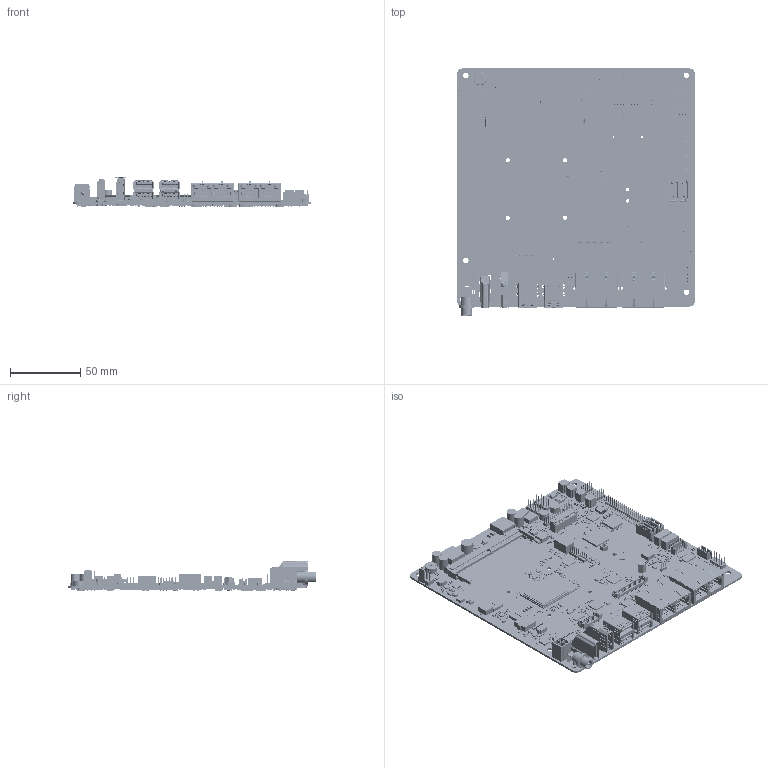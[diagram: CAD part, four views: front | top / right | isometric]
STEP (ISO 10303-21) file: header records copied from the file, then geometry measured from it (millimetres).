
FILE_DESCRIPTION((''),'2;1');
FILE_NAME('0-EMX-EHLP_ASM','2023-03-14T15:56:05',('isaac_lin'),(''),'CREO PARAMETRIC BY PTC INC, 2022284','CREO PARAMETRIC BY PTC INC, 2022284','');
FILE_SCHEMA(('CONFIG_CONTROL_DESIGN'));
Products named in the file (134): EMX-EHLP_PCB; E193A3601X0R; E193A231062R; COP_4_8; USB-CONN; E16F2020130H_3VD21201-H7U0-4H; J-1700000000110_HDMI; E1652503106R; 1655004509-01___; CPU_ELKHART_LAKE_IHS; ELKHART_LATE_CPU; E1652528305R; FITING-NAIL; MAIN_HSG-MODIFY_1_1; HSG_ASM; L_FEA_3_0615_SH; FEATML_ASM; NGFF_PROPOSAL_STANDARD_PROFILE__ASM; A1_ASM; CONNECTOR4_2_ASM; E16BB671030H_ASM; E16D5I00301R; E199TT00343R; C121220151D000H; Q222-386889-00; A-CE_H200; A-FCC_H200; E14S3520900H; E1315700214H; E14S3019801H; E1314111719H; E1315742310H; E14S3364200H; E14S4330400H; E14S4751101H; C121220102C000H; E14S3586900H; E118XX33780H; E14S3126900H; C121220561F000H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
Assembly tree (2027 placements, depth 7):
  0-EMX-EHLP_ASM
    EMX-EHLP_PCB
    E193A3601X0R  x4
    E193A231062R
    COP_4_8
    USB-CONN
    E16F2020130H_3VD21201-H7U0-4H
    J-1700000000110_HDMI
    E1652503106R
    1655004509-01___
    CPU_ELKHART_LAKE_IHS
    ELKHART_LATE_CPU
    E1652528305R  x2
    E16BB671030H_ASM
      CONNECTOR4_2_ASM
        A1_ASM
          NGFF_PROPOSAL_STANDARD_PROFILE__ASM
            FITING-NAIL
            HSG_ASM
              MAIN_HSG-MODIFY_1_1
            FEATML_ASM
              L_FEA_3_0615_SH
    E16D5I00301R  x2
    E199TT00343R
    EMX-EHLP_M_ASM
      C121220151D000H
      Q222-386889-00
      A-CE_H200
      A-FCC_H200
      E14S3520900H
      E1315700214H  x2
      E14S3019801H
      E1314111719H
      E1315742310H
      E14S3364200H
      E14S4330400H
      E14S4751101H
      C121220102C000H  x2
      E14S3586900H
      E118XX33780H  x4
      E14S3126900H
      C121220561F000H
      0030000033  x2
      C1752511000H  x3
      E1613620001R
      E0030100002  x3
      E1231302662H
      E123133272AH
      E1653005204R
      E14S1311300H
      E1662410200H
      E16A37D0414H
      E1663410200R  x2
      E123130256DH  x4
      E1231302764H
      E14S3821000H
      E14S6399046H
      E14S4048500H  x2
      E14S4324304H  x6
      E14S4557100H
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Bounding box: 170 x 176.4 x 22.02 mm (x, y, z)
Volume: 85218.1 mm3; surface area: 152513.3 mm2
Topology: 2135 solids, 2149 shells, 40984 faces, 150524 edges, 142758 vertices
Faces by surface type: plane 34373, cylinder 6080, bspline 358, cone 73, torus 51, sphere 25, extrusion 24
Entity records: 964878 total; most frequent: CARTESIAN_POINT 185407, DIRECTION 178275, ORIENTED_EDGE 116386, VECTOR 74711, LINE 74691, EDGE_CURVE 58193, AXIS2_PLACEMENT_3D 51782, TRIMMED_CURVE 45072
